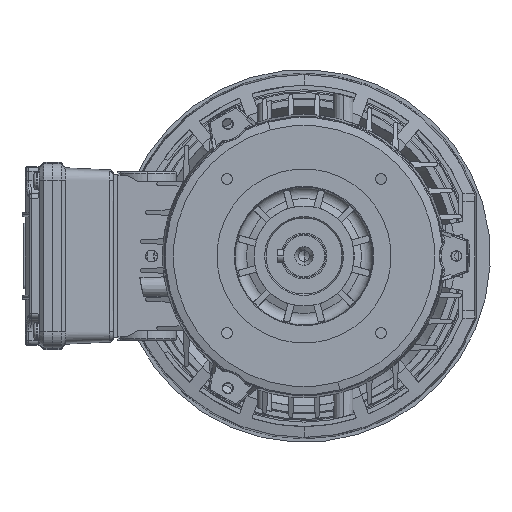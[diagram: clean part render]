
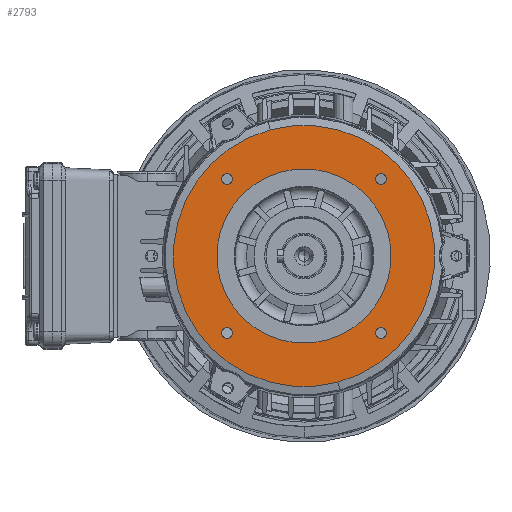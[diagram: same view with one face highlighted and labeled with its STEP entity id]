
A CAD part, left-side view. The second image highlights one B-rep face of the part: STEP entity #2793.
In plain terms, the highlighted planar face has unit normal (-1, 0, 0) as drawn and (0, 1, 0) by its records, which use the part's own axes.
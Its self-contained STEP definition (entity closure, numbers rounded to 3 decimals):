
#247 = CIRCLE ( 'NONE', #75656, 2.5 ) ;
#1237 = CARTESIAN_POINT ( 'NONE',  ( -25., 34., -43.301 ) ) ;
#2793 = ADVANCED_FACE ( 'NONE', ( #17165, #102516, #80543, #58677, #36622, #14545 ), #76685, .F. ) ;
#3332 = AXIS2_PLACEMENT_3D ( 'NONE', #63142, #13542, #71477 ) ;
#3956 = AXIS2_PLACEMENT_3D ( 'NONE', #92050, #42604, #100380 ) ;
#4492 = CARTESIAN_POINT ( 'NONE',  ( -25., 34., -40.801 ) ) ;
#4605 = AXIS2_PLACEMENT_3D ( 'NONE', #70727, #21109, #78982 ) ;
#7669 = CIRCLE ( 'NONE', #3956, 2.5 ) ;
#8271 = VERTEX_POINT ( 'NONE', #99941 ) ;
#9508 = DIRECTION ( 'NONE',  ( 1., 0., 0. ) ) ;
#12880 = AXIS2_PLACEMENT_3D ( 'NONE', #28082, #85858, #36419 ) ;
#13122 = DIRECTION ( 'NONE',  ( 0., 1., 0. ) ) ;
#13542 = DIRECTION ( 'NONE',  ( 0., -1., 0. ) ) ;
#14545 = FACE_OUTER_BOUND ( 'NONE', #106121, .T. ) ;
#14885 = CIRCLE ( 'NONE', #3332, 2.5 ) ;
#15530 = AXIS2_PLACEMENT_3D ( 'NONE', #75022, #25447, #83280 ) ;
#15531 = ORIENTED_EDGE ( 'NONE', *, *, #44650, .T. ) ;
#15839 = CIRCLE ( 'NONE', #4605, 2.5 ) ;
#16028 = AXIS2_PLACEMENT_3D ( 'NONE', #1237, #59198, #9508 ) ;
#17165 = FACE_BOUND ( 'NONE', #98912, .T. ) ;
#17880 = CIRCLE ( 'NONE', #12880, 40. ) ;
#17985 = ORIENTED_EDGE ( 'NONE', *, *, #31303, .T. ) ;
#19122 = VERTEX_POINT ( 'NONE', #45893 ) ;
#19286 = DIRECTION ( 'NONE',  ( 0., 1., 0. ) ) ;
#19871 = ORIENTED_EDGE ( 'NONE', *, *, #33710, .T. ) ;
#20147 = CARTESIAN_POINT ( 'NONE',  ( 40., 34., 0. ) ) ;
#20211 = VERTEX_POINT ( 'NONE', #95166 ) ;
#21109 = DIRECTION ( 'NONE',  ( 0., -1., 0. ) ) ;
#21778 = EDGE_LOOP ( 'NONE', ( #37881, #78020 ) ) ;
#25447 = DIRECTION ( 'NONE',  ( 0., -1., 0. ) ) ;
#26784 = CARTESIAN_POINT ( 'NONE',  ( 43.301, 34., -25. ) ) ;
#28082 = CARTESIAN_POINT ( 'NONE',  ( 0., 34., 0. ) ) ;
#29702 = ORIENTED_EDGE ( 'NONE', *, *, #89637, .F. ) ;
#30005 = CIRCLE ( 'NONE', #16028, 2.5 ) ;
#30942 = CARTESIAN_POINT ( 'NONE',  ( -43.301, 34., 22.5 ) ) ;
#31303 = EDGE_CURVE ( 'NONE', #8271, #75224, #7669, .T. ) ;
#31631 = ORIENTED_EDGE ( 'NONE', *, *, #73694, .T. ) ;
#33527 = AXIS2_PLACEMENT_3D ( 'NONE', #42020, #99782, #50348 ) ;
#33534 = CARTESIAN_POINT ( 'NONE',  ( 25., 34., 40.801 ) ) ;
#33710 = EDGE_CURVE ( 'NONE', #103836, #58891, #51406, .T. ) ;
#35164 = DIRECTION ( 'NONE',  ( 1., 0., 0. ) ) ;
#35854 = DIRECTION ( 'NONE',  ( 0., -1., 0. ) ) ;
#36419 = DIRECTION ( 'NONE',  ( -1., 0., 0. ) ) ;
#36541 = AXIS2_PLACEMENT_3D ( 'NONE', #26784, #84594, #35164 ) ;
#36622 = FACE_BOUND ( 'NONE', #72643, .T. ) ;
#36710 = CARTESIAN_POINT ( 'NONE',  ( -43.301, 34., 25. ) ) ;
#37450 = AXIS2_PLACEMENT_3D ( 'NONE', #68846, #19286, #77154 ) ;
#37881 = ORIENTED_EDGE ( 'NONE', *, *, #56399, .T. ) ;
#40155 = VERTEX_POINT ( 'NONE', #72786 ) ;
#41466 = EDGE_CURVE ( 'NONE', #60824, #58233, #14885, .T. ) ;
#42020 = CARTESIAN_POINT ( 'NONE',  ( 0., 34., 0. ) ) ;
#42521 = CARTESIAN_POINT ( 'NONE',  ( 43.301, 34., -27.5 ) ) ;
#42604 = DIRECTION ( 'NONE',  ( 0., -1., 0. ) ) ;
#43283 = CARTESIAN_POINT ( 'NONE',  ( 25., 34., 43.301 ) ) ;
#43572 = CIRCLE ( 'NONE', #36541, 2.5 ) ;
#44098 = CIRCLE ( 'NONE', #33527, 40. ) ;
#44650 = EDGE_CURVE ( 'NONE', #75224, #8271, #30005, .T. ) ;
#45023 = DIRECTION ( 'NONE',  ( 1., 0., 0. ) ) ;
#45509 = VERTEX_POINT ( 'NONE', #20147 ) ;
#45893 = CARTESIAN_POINT ( 'NONE',  ( -43.301, 34., 27.5 ) ) ;
#47784 = EDGE_CURVE ( 'NONE', #19122, #65702, #81196, .T. ) ;
#50091 = EDGE_LOOP ( 'NONE', ( #89801, #102432 ) ) ;
#50348 = DIRECTION ( 'NONE',  ( -1., 0., 0. ) ) ;
#51406 = CIRCLE ( 'NONE', #37450, 60. ) ;
#51623 = DIRECTION ( 'NONE',  ( 1., 0., 0. ) ) ;
#56399 = EDGE_CURVE ( 'NONE', #101692, #20211, #15839, .T. ) ;
#58233 = VERTEX_POINT ( 'NONE', #95860 ) ;
#58677 = FACE_BOUND ( 'NONE', #61698, .T. ) ;
#58891 = VERTEX_POINT ( 'NONE', #80860 ) ;
#59198 = DIRECTION ( 'NONE',  ( 0., -1., 0. ) ) ;
#60824 = VERTEX_POINT ( 'NONE', #42521 ) ;
#61698 = EDGE_LOOP ( 'NONE', ( #17985, #15531 ) ) ;
#62761 = CARTESIAN_POINT ( 'NONE',  ( 0., 34., 0. ) ) ;
#63142 = CARTESIAN_POINT ( 'NONE',  ( 43.301, 34., -25. ) ) ;
#65702 = VERTEX_POINT ( 'NONE', #30942 ) ;
#68846 = CARTESIAN_POINT ( 'NONE',  ( 0., 34., 0. ) ) ;
#70727 = CARTESIAN_POINT ( 'NONE',  ( 25., 34., 43.301 ) ) ;
#71067 = DIRECTION ( 'NONE',  ( -1., 0., 0. ) ) ;
#71477 = DIRECTION ( 'NONE',  ( 1., 0., 0. ) ) ;
#72643 = EDGE_LOOP ( 'NONE', ( #29702, #87897 ) ) ;
#72786 = CARTESIAN_POINT ( 'NONE',  ( -40., 34., 0. ) ) ;
#73694 = EDGE_CURVE ( 'NONE', #58891, #103836, #86224, .T. ) ;
#74094 = EDGE_CURVE ( 'NONE', #58233, #60824, #43572, .T. ) ;
#75022 = CARTESIAN_POINT ( 'NONE',  ( -43.301, 34., 25. ) ) ;
#75224 = VERTEX_POINT ( 'NONE', #4492 ) ;
#75624 = ORIENTED_EDGE ( 'NONE', *, *, #96860, .T. ) ;
#75656 = AXIS2_PLACEMENT_3D ( 'NONE', #36710, #94505, #45023 ) ;
#76685 = PLANE ( 'NONE',  #101763 ) ;
#77154 = DIRECTION ( 'NONE',  ( -1., 0., 0. ) ) ;
#78020 = ORIENTED_EDGE ( 'NONE', *, *, #104235, .T. ) ;
#78982 = DIRECTION ( 'NONE',  ( 1., 0., 0. ) ) ;
#80543 = FACE_BOUND ( 'NONE', #50091, .T. ) ;
#80860 = CARTESIAN_POINT ( 'NONE',  ( 60., 34., 0. ) ) ;
#81196 = CIRCLE ( 'NONE', #15530, 2.5 ) ;
#82590 = EDGE_CURVE ( 'NONE', #45509, #40155, #17880, .T. ) ;
#83280 = DIRECTION ( 'NONE',  ( 1., 0., 0. ) ) ;
#84594 = DIRECTION ( 'NONE',  ( 0., -1., 0. ) ) ;
#84899 = AXIS2_PLACEMENT_3D ( 'NONE', #62761, #13122, #71067 ) ;
#85279 = CARTESIAN_POINT ( 'NONE',  ( 60., 34., 0. ) ) ;
#85858 = DIRECTION ( 'NONE',  ( 0., 1., 0. ) ) ;
#86224 = CIRCLE ( 'NONE', #84899, 60. ) ;
#86670 = CARTESIAN_POINT ( 'NONE',  ( -60., 34., 0. ) ) ;
#87897 = ORIENTED_EDGE ( 'NONE', *, *, #82590, .F. ) ;
#89637 = EDGE_CURVE ( 'NONE', #40155, #45509, #44098, .T. ) ;
#89801 = ORIENTED_EDGE ( 'NONE', *, *, #41466, .T. ) ;
#92050 = CARTESIAN_POINT ( 'NONE',  ( -25., 34., -43.301 ) ) ;
#92060 = AXIS2_PLACEMENT_3D ( 'NONE', #43283, #101057, #51623 ) ;
#92185 = ORIENTED_EDGE ( 'NONE', *, *, #47784, .T. ) ;
#93633 = DIRECTION ( 'NONE',  ( 1., 0., 0. ) ) ;
#94505 = DIRECTION ( 'NONE',  ( 0., -1., 0. ) ) ;
#95166 = CARTESIAN_POINT ( 'NONE',  ( 25., 34., 45.801 ) ) ;
#95860 = CARTESIAN_POINT ( 'NONE',  ( 43.301, 34., -22.5 ) ) ;
#96860 = EDGE_CURVE ( 'NONE', #65702, #19122, #247, .T. ) ;
#98912 = EDGE_LOOP ( 'NONE', ( #75624, #92185 ) ) ;
#99782 = DIRECTION ( 'NONE',  ( 0., 1., 0. ) ) ;
#99941 = CARTESIAN_POINT ( 'NONE',  ( -25., 34., -45.801 ) ) ;
#100030 = CIRCLE ( 'NONE', #92060, 2.5 ) ;
#100380 = DIRECTION ( 'NONE',  ( 1., 0., 0. ) ) ;
#101057 = DIRECTION ( 'NONE',  ( 0., -1., 0. ) ) ;
#101692 = VERTEX_POINT ( 'NONE', #33534 ) ;
#101763 = AXIS2_PLACEMENT_3D ( 'NONE', #85279, #35854, #93633 ) ;
#102432 = ORIENTED_EDGE ( 'NONE', *, *, #74094, .T. ) ;
#102516 = FACE_BOUND ( 'NONE', #21778, .T. ) ;
#103836 = VERTEX_POINT ( 'NONE', #86670 ) ;
#104235 = EDGE_CURVE ( 'NONE', #20211, #101692, #100030, .T. ) ;
#106121 = EDGE_LOOP ( 'NONE', ( #19871, #31631 ) ) ;
